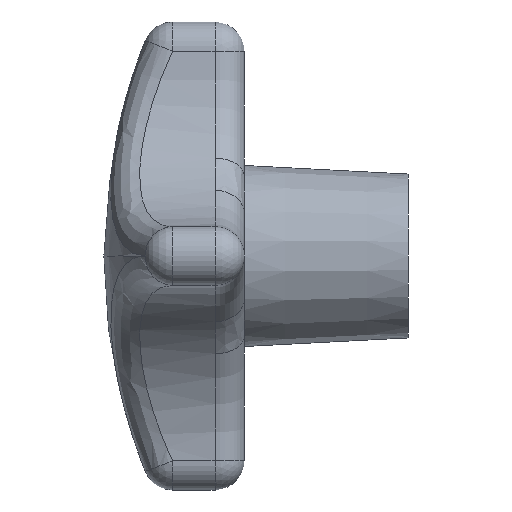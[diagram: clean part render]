
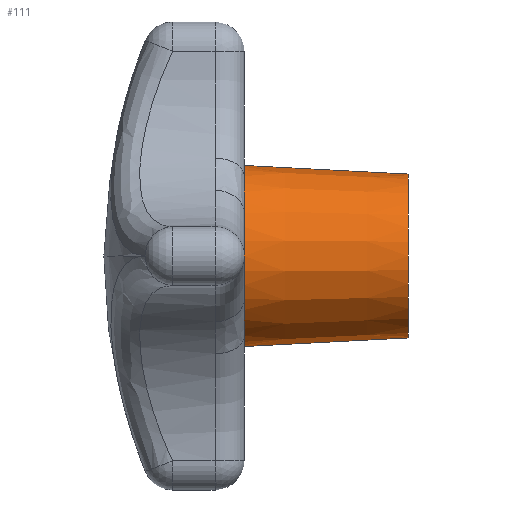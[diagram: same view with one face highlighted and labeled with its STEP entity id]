
A CAD part, left-side view. The second image highlights one B-rep face of the part: STEP entity #111.
In plain terms, the highlighted conical face has half-angle 3 degrees and reference radius 7 mm.
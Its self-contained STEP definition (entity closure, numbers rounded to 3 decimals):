
#16 = ORIENTED_EDGE ( 'NONE', *, *, #98, .T. ) ;
#36 = EDGE_CURVE ( 'NONE', #37, #96, #1528, .T. ) ;
#37 = VERTEX_POINT ( 'NONE', #1523 ) ;
#50 = EDGE_CURVE ( 'NONE', #105, #136, #1439, .T. ) ;
#51 = ORIENTED_EDGE ( 'NONE', *, *, #36, .F. ) ;
#52 = ORIENTED_EDGE ( 'NONE', *, *, #113, .F. ) ;
#67 = VERTEX_POINT ( 'NONE', #1663 ) ;
#71 = EDGE_CURVE ( 'NONE', #87, #86, #1533, .T. ) ;
#81 = EDGE_CURVE ( 'NONE', #123, #67, #439, .T. ) ;
#82 = EDGE_LOOP ( 'NONE', ( #83, #110, #16, #51, #52, #109, #99, #173 ) ) ;
#83 = ORIENTED_EDGE ( 'NONE', *, *, #104, .F. ) ;
#84 = EDGE_CURVE ( 'NONE', #136, #123, #445, .T. ) ;
#86 = VERTEX_POINT ( 'NONE', #1891 ) ;
#87 = VERTEX_POINT ( 'NONE', #1859 ) ;
#96 = VERTEX_POINT ( 'NONE', #1876 ) ;
#98 = EDGE_CURVE ( 'NONE', #86, #96, #1875, .T. ) ;
#99 = ORIENTED_EDGE ( 'NONE', *, *, #84, .F. ) ;
#104 = EDGE_CURVE ( 'NONE', #87, #105, #1858, .T. ) ;
#105 = VERTEX_POINT ( 'NONE', #1894 ) ;
#109 = ORIENTED_EDGE ( 'NONE', *, *, #81, .F. ) ;
#110 = ORIENTED_EDGE ( 'NONE', *, *, #71, .T. ) ;
#111 = ADVANCED_FACE ( 'NONE', ( #1821 ), #1820, .T. ) ;
#113 = EDGE_CURVE ( 'NONE', #67, #37, #1864, .T. ) ;
#123 = VERTEX_POINT ( 'NONE', #1709 ) ;
#136 = VERTEX_POINT ( 'NONE', #1907 ) ;
#173 = ORIENTED_EDGE ( 'NONE', *, *, #50, .F. ) ;
#430 = AXIS2_PLACEMENT_3D ( 'NONE', #447, #936, #962 ) ;
#439 = CIRCLE ( 'NONE', #442, 7.734 ) ;
#441 = DIRECTION ( 'NONE',  ( 0., 1., 0. ) ) ;
#442 = AXIS2_PLACEMENT_3D ( 'NONE', #443, #441, #444 ) ;
#443 = CARTESIAN_POINT ( 'NONE',  ( 0., 0., 0. ) ) ;
#444 = DIRECTION ( 'NONE',  ( 0., 0., 1. ) ) ;
#445 = CIRCLE ( 'NONE', #430, 7.734 ) ;
#447 = CARTESIAN_POINT ( 'NONE',  ( 0., 0., 0. ) ) ;
#936 = DIRECTION ( 'NONE',  ( 0., 1., 0. ) ) ;
#962 = DIRECTION ( 'NONE',  ( 0., 0., 1. ) ) ;
#1435 = DIRECTION ( 'NONE',  ( 0., 0., 1. ) ) ;
#1436 = DIRECTION ( 'NONE',  ( 0., 1., 0. ) ) ;
#1437 = CARTESIAN_POINT ( 'NONE',  ( 0., 0., 0. ) ) ;
#1438 = AXIS2_PLACEMENT_3D ( 'NONE', #1437, #1436, #1435 ) ;
#1439 = CIRCLE ( 'NONE', #1438, 7.734 ) ;
#1523 = CARTESIAN_POINT ( 'NONE',  ( -3.63, 0., 6.829 ) ) ;
#1524 = DIRECTION ( 'NONE',  ( 0., 0., 1. ) ) ;
#1525 = DIRECTION ( 'NONE',  ( 0., 1., 0. ) ) ;
#1526 = CARTESIAN_POINT ( 'NONE',  ( 0., 0., 0. ) ) ;
#1527 = AXIS2_PLACEMENT_3D ( 'NONE', #1526, #1525, #1524 ) ;
#1528 = CIRCLE ( 'NONE', #1527, 7.734 ) ;
#1530 = DIRECTION ( 'NONE',  ( 0., 0., 1. ) ) ;
#1531 = DIRECTION ( 'NONE',  ( 0., 1., 0. ) ) ;
#1532 = AXIS2_PLACEMENT_3D ( 'NONE', #1540, #1531, #1530 ) ;
#1533 = CIRCLE ( 'NONE', #1532, 7. ) ;
#1540 = CARTESIAN_POINT ( 'NONE',  ( 0., -14., 0. ) ) ;
#1663 = CARTESIAN_POINT ( 'NONE',  ( -6.829, 0., 3.63 ) ) ;
#1709 = CARTESIAN_POINT ( 'NONE',  ( -6.829, 0., -3.63 ) ) ;
#1779 = DIRECTION ( 'NONE',  ( 0., 0.999, 0.052 ) ) ;
#1780 = VECTOR ( 'NONE', #1779, 1000. ) ;
#1781 = CARTESIAN_POINT ( 'NONE',  ( 0., -14., 7. ) ) ;
#1809 = DIRECTION ( 'NONE',  ( 0., 0., 1. ) ) ;
#1810 = DIRECTION ( 'NONE',  ( 0., 1., 0. ) ) ;
#1811 = CARTESIAN_POINT ( 'NONE',  ( 0., -14., 0. ) ) ;
#1819 = AXIS2_PLACEMENT_3D ( 'NONE', #1811, #1810, #1809 ) ;
#1820 = CONICAL_SURFACE ( 'NONE', #1819, 7., 0.052 ) ;
#1821 = FACE_OUTER_BOUND ( 'NONE', #82, .T. ) ;
#1855 = DIRECTION ( 'NONE',  ( 0., 0.999, -0.052 ) ) ;
#1856 = VECTOR ( 'NONE', #1855, 1000. ) ;
#1857 = CARTESIAN_POINT ( 'NONE',  ( 0., -14., -7. ) ) ;
#1858 = LINE ( 'NONE', #1857, #1856 ) ;
#1859 = CARTESIAN_POINT ( 'NONE',  ( 0., -14., -7. ) ) ;
#1860 = DIRECTION ( 'NONE',  ( 0., 0., 1. ) ) ;
#1861 = DIRECTION ( 'NONE',  ( 0., 1., 0. ) ) ;
#1862 = CARTESIAN_POINT ( 'NONE',  ( 0., 0., 0. ) ) ;
#1863 = AXIS2_PLACEMENT_3D ( 'NONE', #1862, #1861, #1860 ) ;
#1864 = CIRCLE ( 'NONE', #1863, 7.734 ) ;
#1875 = LINE ( 'NONE', #1781, #1780 ) ;
#1876 = CARTESIAN_POINT ( 'NONE',  ( 0., 0., 7.734 ) ) ;
#1891 = CARTESIAN_POINT ( 'NONE',  ( 0., -14., 7. ) ) ;
#1894 = CARTESIAN_POINT ( 'NONE',  ( 0., 0., -7.734 ) ) ;
#1907 = CARTESIAN_POINT ( 'NONE',  ( -3.63, 0., -6.829 ) ) ;
